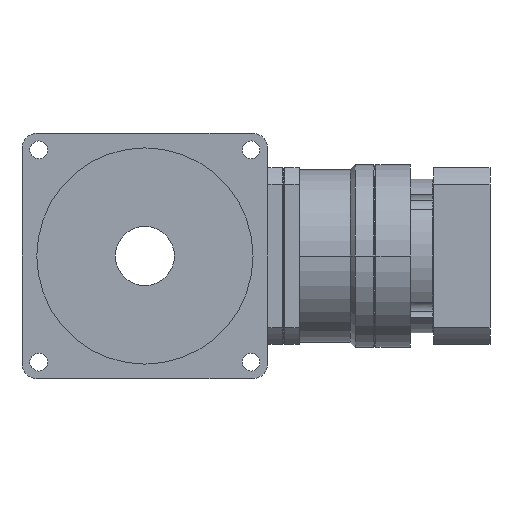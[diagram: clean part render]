
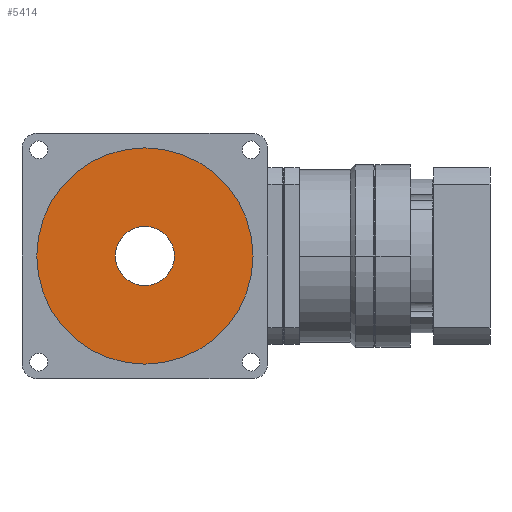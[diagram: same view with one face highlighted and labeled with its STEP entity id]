
A CAD part, left-side view. The second image highlights one B-rep face of the part: STEP entity #5414.
In plain terms, the highlighted planar face has unit normal (-1, 0, 0).
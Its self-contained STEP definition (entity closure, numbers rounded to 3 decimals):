
#309 = CIRCLE ( 'NONE', #8670, 15. ) ;
#656 = EDGE_CURVE ( 'NONE', #1951, #1529, #309, .T. ) ;
#841 = ORIENTED_EDGE ( 'NONE', *, *, #3379, .T. ) ;
#991 = DIRECTION ( 'NONE',  ( -1., 0., 0. ) ) ;
#1069 = CARTESIAN_POINT ( 'NONE',  ( -43., 0., 0. ) ) ;
#1154 = ORIENTED_EDGE ( 'NONE', *, *, #9168, .F. ) ;
#1286 = PLANE ( 'NONE',  #5640 ) ;
#1529 = VERTEX_POINT ( 'NONE', #9831 ) ;
#1884 = DIRECTION ( 'NONE',  ( -1., 0., 0. ) ) ;
#1951 = VERTEX_POINT ( 'NONE', #11133 ) ;
#2018 = CARTESIAN_POINT ( 'NONE',  ( -43., 0., 0. ) ) ;
#2102 = CIRCLE ( 'NONE', #10452, 55. ) ;
#3379 = EDGE_CURVE ( 'NONE', #4699, #7801, #2102, .T. ) ;
#3453 = FACE_OUTER_BOUND ( 'NONE', #4221, .T. ) ;
#4094 = DIRECTION ( 'NONE',  ( 0., 0., 1. ) ) ;
#4221 = EDGE_LOOP ( 'NONE', ( #841, #10578 ) ) ;
#4470 = CARTESIAN_POINT ( 'NONE',  ( -43., 0., 0. ) ) ;
#4699 = VERTEX_POINT ( 'NONE', #6171 ) ;
#4847 = CARTESIAN_POINT ( 'NONE',  ( -43., 0., -55. ) ) ;
#5414 = ADVANCED_FACE ( 'NONE', ( #12652, #3453 ), #1286, .T. ) ;
#5447 = DIRECTION ( 'NONE',  ( -1., 0., 0. ) ) ;
#5517 = ORIENTED_EDGE ( 'NONE', *, *, #656, .F. ) ;
#5539 = DIRECTION ( 'NONE',  ( 0., 0., 1. ) ) ;
#5640 = AXIS2_PLACEMENT_3D ( 'NONE', #1069, #991, #5539 ) ;
#5788 = EDGE_CURVE ( 'NONE', #7801, #4699, #10191, .T. ) ;
#6171 = CARTESIAN_POINT ( 'NONE',  ( -43., 0., 55. ) ) ;
#6491 = DIRECTION ( 'NONE',  ( 0., 0., 1. ) ) ;
#6647 = DIRECTION ( 'NONE',  ( 0., 0., 1. ) ) ;
#7536 = CARTESIAN_POINT ( 'NONE',  ( -43., 0., 0. ) ) ;
#7696 = CIRCLE ( 'NONE', #13418, 15. ) ;
#7801 = VERTEX_POINT ( 'NONE', #4847 ) ;
#7838 = DIRECTION ( 'NONE',  ( -1., 0., 0. ) ) ;
#8583 = DIRECTION ( 'NONE',  ( -1., 0., 0. ) ) ;
#8670 = AXIS2_PLACEMENT_3D ( 'NONE', #4470, #1884, #14434 ) ;
#9168 = EDGE_CURVE ( 'NONE', #1529, #1951, #7696, .T. ) ;
#9831 = CARTESIAN_POINT ( 'NONE',  ( -43., 0., -15. ) ) ;
#10150 = CARTESIAN_POINT ( 'NONE',  ( -43., 0., 0. ) ) ;
#10191 = CIRCLE ( 'NONE', #14008, 55. ) ;
#10452 = AXIS2_PLACEMENT_3D ( 'NONE', #7536, #8583, #4094 ) ;
#10578 = ORIENTED_EDGE ( 'NONE', *, *, #5788, .T. ) ;
#11133 = CARTESIAN_POINT ( 'NONE',  ( -43., 0., 15. ) ) ;
#12652 = FACE_BOUND ( 'NONE', #14075, .T. ) ;
#13418 = AXIS2_PLACEMENT_3D ( 'NONE', #2018, #5447, #6491 ) ;
#14008 = AXIS2_PLACEMENT_3D ( 'NONE', #10150, #7838, #6647 ) ;
#14075 = EDGE_LOOP ( 'NONE', ( #1154, #5517 ) ) ;
#14434 = DIRECTION ( 'NONE',  ( 0., 0., 1. ) ) ;
